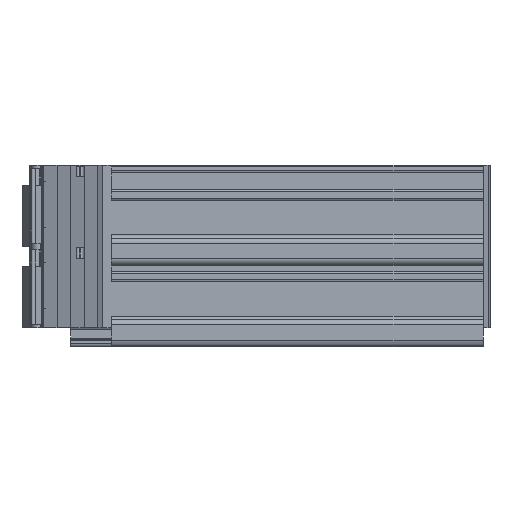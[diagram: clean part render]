
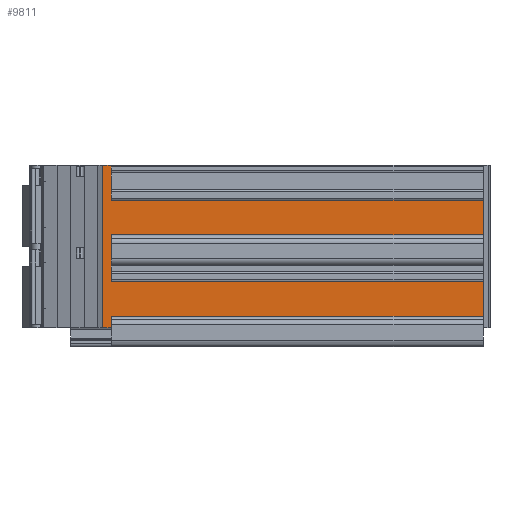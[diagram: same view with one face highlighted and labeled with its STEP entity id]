
A CAD part, left-side view. The second image highlights one B-rep face of the part: STEP entity #9811.
In plain terms, the highlighted planar face has unit normal (-1, 0, 0).
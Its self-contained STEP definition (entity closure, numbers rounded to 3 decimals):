
#1051=FACE_OUTER_BOUND('',#1596,.T.);
#1596=EDGE_LOOP('',(#8466,#8467,#8468,#8469,#8470,#8471,#8472,#8473,#8474,
#8475,#8476,#8477));
#1924=LINE('',#14294,#2908);
#1931=LINE('',#14311,#2915);
#1954=LINE('',#14386,#2938);
#2054=LINE('',#14655,#3038);
#2111=LINE('',#14789,#3095);
#2440=LINE('',#15704,#3424);
#2445=LINE('',#15716,#3429);
#2468=LINE('',#15791,#3452);
#2471=LINE('',#15796,#3455);
#2565=LINE('',#16048,#3549);
#2579=LINE('',#16078,#3563);
#2580=LINE('',#16079,#3564);
#2908=VECTOR('',#11587,10.);
#2915=VECTOR('',#11604,10.);
#2938=VECTOR('',#11679,10.);
#3038=VECTOR('',#11943,10.);
#3095=VECTOR('',#12044,10.);
#3424=VECTOR('',#12933,10.);
#3429=VECTOR('',#12948,10.);
#3452=VECTOR('',#13023,10.);
#3455=VECTOR('',#13030,10.);
#3549=VECTOR('',#13300,10.);
#3563=VECTOR('',#13346,10.);
#3564=VECTOR('',#13347,10.);
#3888=VERTEX_POINT('',#14291);
#3889=VERTEX_POINT('',#14293);
#3894=VERTEX_POINT('',#14309);
#3917=VERTEX_POINT('',#14379);
#3920=VERTEX_POINT('',#14384);
#4007=VERTEX_POINT('',#14653);
#4061=VERTEX_POINT('',#14786);
#4062=VERTEX_POINT('',#14788);
#4367=VERTEX_POINT('',#15701);
#4368=VERTEX_POINT('',#15703);
#4393=VERTEX_POINT('',#15784);
#4396=VERTEX_POINT('',#15789);
#4917=EDGE_CURVE('',#3889,#3888,#1924,.T.);
#4926=EDGE_CURVE('',#3888,#3894,#1931,.T.);
#4963=EDGE_CURVE('',#3917,#3920,#1954,.T.);
#5097=EDGE_CURVE('',#3894,#4007,#2054,.T.);
#5164=EDGE_CURVE('',#4062,#4061,#2111,.T.);
#5615=EDGE_CURVE('',#4368,#4367,#2440,.T.);
#5622=EDGE_CURVE('',#4367,#3917,#2445,.T.);
#5659=EDGE_CURVE('',#4393,#4396,#2468,.T.);
#5662=EDGE_CURVE('',#4061,#4393,#2471,.T.);
#5788=EDGE_CURVE('',#4062,#4007,#2565,.T.);
#5802=EDGE_CURVE('',#4396,#4368,#2579,.T.);
#5803=EDGE_CURVE('',#3920,#3889,#2580,.T.);
#8466=ORIENTED_EDGE('',*,*,#5622,.T.);
#8467=ORIENTED_EDGE('',*,*,#4963,.T.);
#8468=ORIENTED_EDGE('',*,*,#5803,.T.);
#8469=ORIENTED_EDGE('',*,*,#4917,.T.);
#8470=ORIENTED_EDGE('',*,*,#4926,.T.);
#8471=ORIENTED_EDGE('',*,*,#5097,.T.);
#8472=ORIENTED_EDGE('',*,*,#5788,.F.);
#8473=ORIENTED_EDGE('',*,*,#5164,.T.);
#8474=ORIENTED_EDGE('',*,*,#5662,.T.);
#8475=ORIENTED_EDGE('',*,*,#5659,.T.);
#8476=ORIENTED_EDGE('',*,*,#5802,.T.);
#8477=ORIENTED_EDGE('',*,*,#5615,.T.);
#8828=PLANE('',#10675);
#9811=ADVANCED_FACE('',(#1051),#8828,.T.);
#10675=AXIS2_PLACEMENT_3D('',#16080,#13348,#13349);
#11587=DIRECTION('',(0.,1.,0.));
#11604=DIRECTION('',(0.,0.,1.));
#11679=DIRECTION('',(0.,-1.,0.));
#11943=DIRECTION('',(0.,1.,0.));
#12044=DIRECTION('',(0.,-1.,0.));
#12933=DIRECTION('',(0.,1.,0.));
#12948=DIRECTION('',(0.,0.,1.));
#13023=DIRECTION('',(0.,-1.,0.));
#13030=DIRECTION('',(0.,0.,1.));
#13300=DIRECTION('',(0.,0.,1.));
#13346=DIRECTION('',(0.,0.,1.));
#13347=DIRECTION('',(0.,0.,1.));
#13348=DIRECTION('center_axis',(-1.,0.,0.));
#13349=DIRECTION('ref_axis',(0.,0.,1.));
#14291=CARTESIAN_POINT('',(-32.4,48.4,18.8));
#14293=CARTESIAN_POINT('',(-32.4,-6.4,18.8));
#14294=CARTESIAN_POINT('',(-32.4,-6.4,18.8));
#14309=CARTESIAN_POINT('',(-32.4,48.4,24.));
#14311=CARTESIAN_POINT('',(-32.4,48.4,16.594));
#14379=CARTESIAN_POINT('',(-32.4,48.4,13.7));
#14384=CARTESIAN_POINT('',(-32.4,-6.4,13.7));
#14386=CARTESIAN_POINT('',(-32.4,-6.4,13.7));
#14653=CARTESIAN_POINT('',(-32.4,49.707,24.));
#14655=CARTESIAN_POINT('',(-32.4,49.707,24.));
#14786=CARTESIAN_POINT('',(-32.4,48.4,0.));
#14788=CARTESIAN_POINT('',(-32.4,49.707,0.));
#14789=CARTESIAN_POINT('',(-32.4,49.707,0.));
#15701=CARTESIAN_POINT('',(-32.4,48.4,6.8));
#15703=CARTESIAN_POINT('',(-32.4,-6.4,6.8));
#15704=CARTESIAN_POINT('',(-32.4,-6.4,6.8));
#15716=CARTESIAN_POINT('',(-32.4,48.4,11.73));
#15784=CARTESIAN_POINT('',(-32.4,48.4,1.7));
#15789=CARTESIAN_POINT('',(-32.4,-6.4,1.7));
#15791=CARTESIAN_POINT('',(-32.4,-6.4,1.7));
#15796=CARTESIAN_POINT('',(-32.4,48.4,-0.27));
#16048=CARTESIAN_POINT('',(-32.4,49.707,0.));
#16078=CARTESIAN_POINT('',(-32.4,-6.4,0.));
#16079=CARTESIAN_POINT('',(-32.4,-6.4,12.));
#16080=CARTESIAN_POINT('Origin',(-32.4,-6.4,0.));
